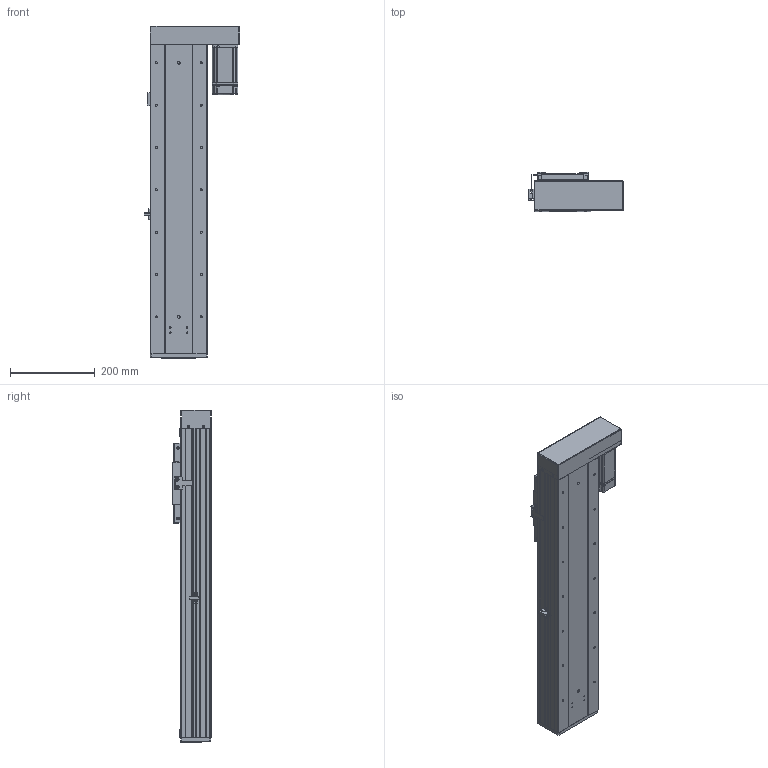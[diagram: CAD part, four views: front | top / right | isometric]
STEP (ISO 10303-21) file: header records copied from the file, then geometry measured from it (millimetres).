
FILE_DESCRIPTION (( 'STEP AP203' ), '1' );
FILE_NAME ('RY140F-L2020-300-RK.SLDASM_450.step', '2021-03-02T08:50:12', ( '盈信电脑' ), ( '东莞市道滘镇水果街19号' ), 'SwSTEP 2.0', 'SolidWorks 2012', '' );
FILE_SCHEMA (( 'CONFIG_CONTROL_DESIGN' ));
Length unit declared in the file: millimetre
Products named in the file (19): RY140F-酘衵殏萇儂欶(400W); RY140F-左右折电机安装板(400W M5); RY140F-L2020-300-RK.SLDASM_450; RY140F-詩湍揤え; 侐源滅袉蝶; RY140F-转折折电机座（7001）; RY140F-672覜茼んえ; RY140F-后盖板(铝件）; 侂狟400W侜督萇儂; 覜茼ん672; 15; RY140F-直连型材铝滑块(16丝杆); RY100F-詩湍揤踡謫; RY140F-詩湍幗謫粣; RY140F-300-RK蛌殏詩湍_450; RY140F-滅鳥奻裔; RY140F-直连型材铝滑块连接座; RY140F-300-RK倰第奻裔啣_450; RY140F-300-RK倰第菁釱_450
Assembly tree (23 placements, depth 3):
  RY140F-L2020-300-RK.SLDASM_450
    RY140F-300-RK倰第菁釱_450
    RY140F-300-RK倰第奻裔啣_450  x2
    RY140F-300-RK蛌殏詩湍_450
    RY140F-直连型材铝滑块连接座
    RY140F-滅鳥奻裔
    RY140F-詩湍幗謫粣
    RY100F-詩湍揤踡謫
    RY140F-直连型材铝滑块(16丝杆)
    RY140F-后盖板(铝件）
    侂狟400W侜督萇儂
      15
    覜茼ん672
    RY140F-672覜茼んえ
    RY140F-詩湍揤え  x2
    侐源滅袉蝶  x4
    RY140F-转折折电机座（7001）
    RY140F-左右折电机安装板(400W M5)
    RY140F-酘衵殏萇儂欶(400W)
Bounding box: 224.7 x 91 x 784 mm (x, y, z)
Volume: 3353528.8 mm3; surface area: 1188663.7 mm2
Topology: 22 solids, 22 shells, 2001 faces, 5461 edges, 3472 vertices
Faces by surface type: cylinder 968, plane 789, cone 214, bspline 26, torus 4
Entity records: 63263 total; most frequent: CARTESIAN_POINT 13425, DIRECTION 10106, ORIENTED_EDGE 9834, EDGE_CURVE 4917, AXIS2_PLACEMENT_3D 3617, VERTEX_POINT 3212, LINE 2872, VECTOR 2872
